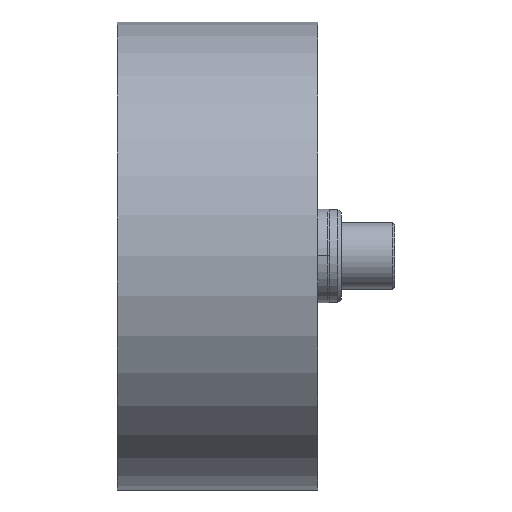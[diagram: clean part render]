
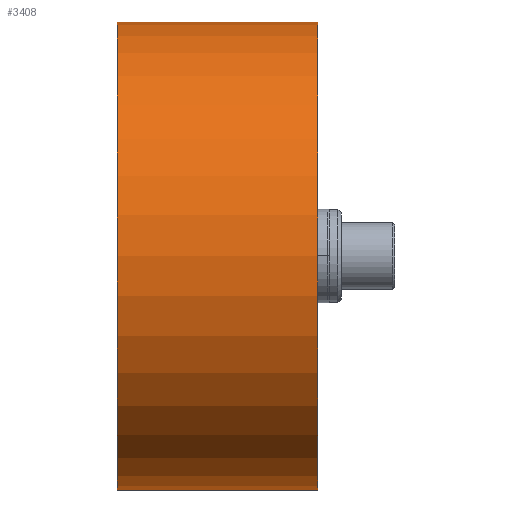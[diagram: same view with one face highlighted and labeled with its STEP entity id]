
A CAD part, top view. The second image highlights one B-rep face of the part: STEP entity #3408.
In plain terms, the highlighted cylindrical face has radius 35 mm (diameter 70 mm), a partial arc.
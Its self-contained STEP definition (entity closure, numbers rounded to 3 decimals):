
#1129=CARTESIAN_POINT('',(30.,0.,0.));
#1130=DIRECTION('',(1.,0.,0.));
#1131=DIRECTION('',(0.,1.,0.));
#1132=AXIS2_PLACEMENT_3D('',#1129,#1130,#1131);
#1174=DIRECTION('',(1.,0.,0.));
#1175=VECTOR('',#1174,30.);
#1176=CARTESIAN_POINT('',(0.,-35.,0.));
#1177=LINE('',#1176,#1175);
#1183=CARTESIAN_POINT('',(0.,0.,0.));
#1184=DIRECTION('',(1.,0.,0.));
#1185=DIRECTION('',(0.,1.,0.));
#1186=AXIS2_PLACEMENT_3D('',#1183,#1184,#1185);
#1198=DIRECTION('',(1.,0.,0.));
#1199=VECTOR('',#1198,30.);
#1200=CARTESIAN_POINT('',(0.,35.,0.));
#1201=LINE('',#1200,#1199);
#1835=CARTESIAN_POINT('',(0.,-35.,0.));
#1836=CARTESIAN_POINT('',(0.,35.,0.));
#1837=VERTEX_POINT('',#1835);
#1838=VERTEX_POINT('',#1836);
#1839=CARTESIAN_POINT('',(30.,-35.,0.));
#1840=CARTESIAN_POINT('',(30.,35.,0.));
#1841=VERTEX_POINT('',#1839);
#1842=VERTEX_POINT('',#1840);
#3397=CARTESIAN_POINT('',(0.,0.,0.));
#3398=DIRECTION('',(1.,0.,0.));
#3399=DIRECTION('',(0.,-1.,0.));
#3400=AXIS2_PLACEMENT_3D('',#3397,#3398,#3399);
#3401=CYLINDRICAL_SURFACE('',#3400,35.);
#3402=ORIENTED_EDGE('',*,*,#3386,.F.);
#3403=ORIENTED_EDGE('',*,*,#3375,.T.);
#3404=ORIENTED_EDGE('',*,*,#3337,.T.);
#3405=ORIENTED_EDGE('',*,*,#3372,.F.);
#3406=EDGE_LOOP('',(#3402,#3403,#3404,#3405));
#3407=FACE_OUTER_BOUND('',#3406,.F.);
#3408=ADVANCED_FACE('',(#3407),#3401,.T.);
#1133=CIRCLE('',#1132,35.);
#1187=CIRCLE('',#1186,35.);
#3337=EDGE_CURVE('',#1842,#1841,#1133,.T.);
#3372=EDGE_CURVE('',#1837,#1841,#1177,.T.);
#3375=EDGE_CURVE('',#1838,#1842,#1201,.T.);
#3386=EDGE_CURVE('',#1838,#1837,#1187,.T.);
